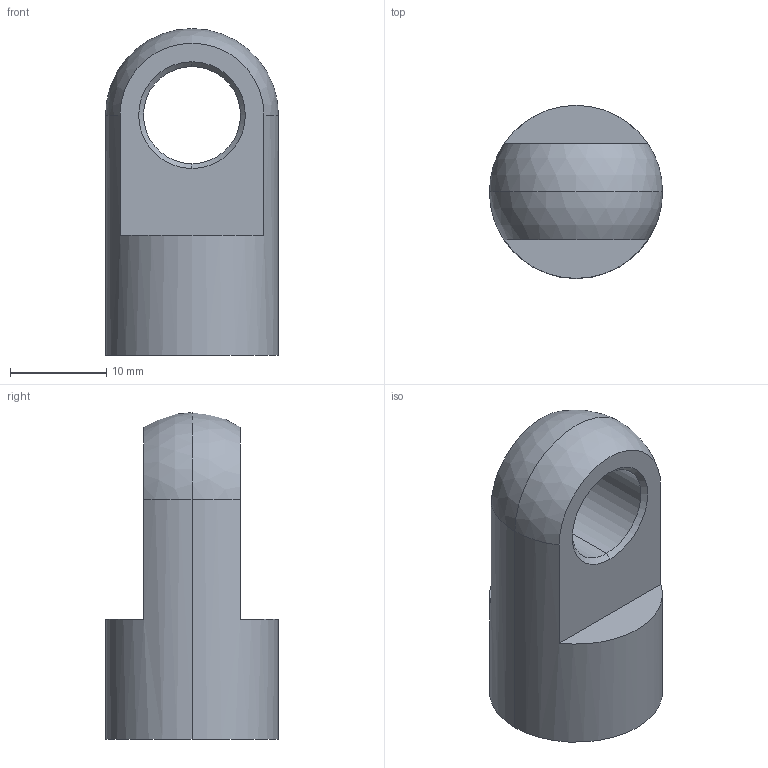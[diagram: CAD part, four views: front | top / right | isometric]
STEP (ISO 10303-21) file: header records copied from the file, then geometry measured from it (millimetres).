
FILE_DESCRIPTION (( 'STEP AP214' ), '1' );
FILE_NAME ('18.08A1L25N10.1.STEP', '2017-10-21T12:33:59', ( '' ), ( '' ), 'SwSTEP 2.0', 'SolidWorks 2016', '' );
FILE_SCHEMA (( 'AUTOMOTIVE_DESIGN' ));
Length unit declared in the file: millimetre
Products named in the file (1): 18.08A1L25N10.1
Bounding box: 18 x 18 x 34 mm (x, y, z)
Volume: 5177.8 mm3; surface area: 2539 mm2
Topology: 1 solids, 1 shells, 21 faces, 48 edges, 28 vertices
Faces by surface type: cone 8, cylinder 6, plane 5, sphere 2
Entity records: 620 total; most frequent: DIRECTION 116, CARTESIAN_POINT 96, ORIENTED_EDGE 92, AXIS2_PLACEMENT_3D 48, EDGE_CURVE 46, VERTEX_POINT 28, CIRCLE 26, EDGE_LOOP 24
